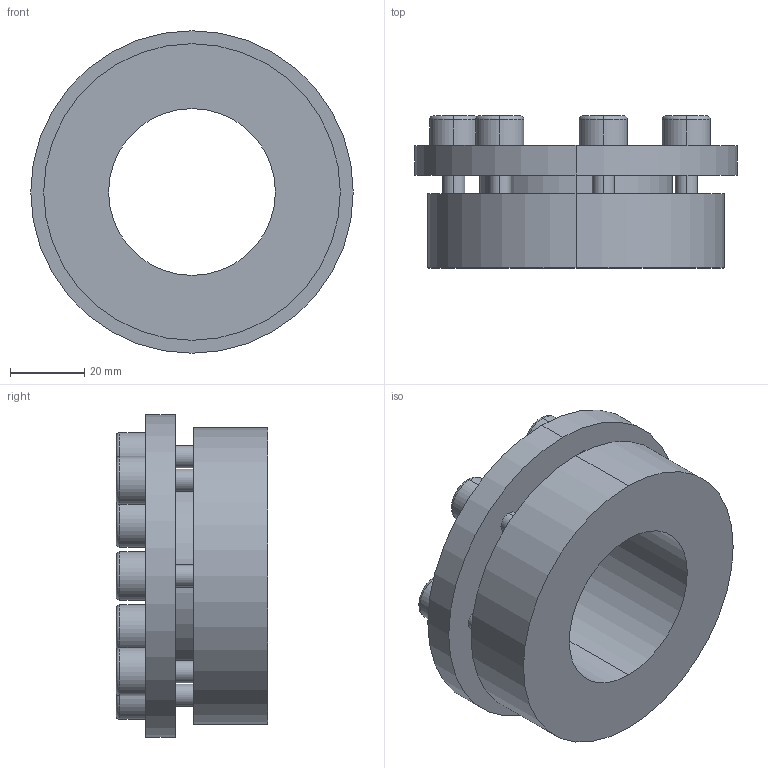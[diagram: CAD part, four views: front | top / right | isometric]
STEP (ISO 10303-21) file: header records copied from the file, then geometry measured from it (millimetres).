
FILE_DESCRIPTION (( 'STEP AP203' ), '1' );
FILE_NAME ('PL-H4 45-80.STEP', '2021-10-23T01:21:24', ( '' ), ( '' ), 'SwSTEP 2.0', 'SolidWorks 2018', '' );
FILE_SCHEMA (( 'CONFIG_CONTROL_DESIGN' ));
Length unit declared in the file: millimetre
Products named in the file (1): PL-H4 45-80
Bounding box: 87 x 41 x 87 mm (x, y, z)
Volume: 113713.2 mm3; surface area: 30216.5 mm2
Topology: 1 solids, 1 shells, 110 faces, 262 edges, 170 vertices
Faces by surface type: plane 60, cylinder 36, torus 14
Entity records: 3303 total; most frequent: DIRECTION 584, CARTESIAN_POINT 543, ORIENTED_EDGE 524, EDGE_CURVE 262, AXIS2_PLACEMENT_3D 211, VERTEX_POINT 170, VECTOR 162, LINE 162
